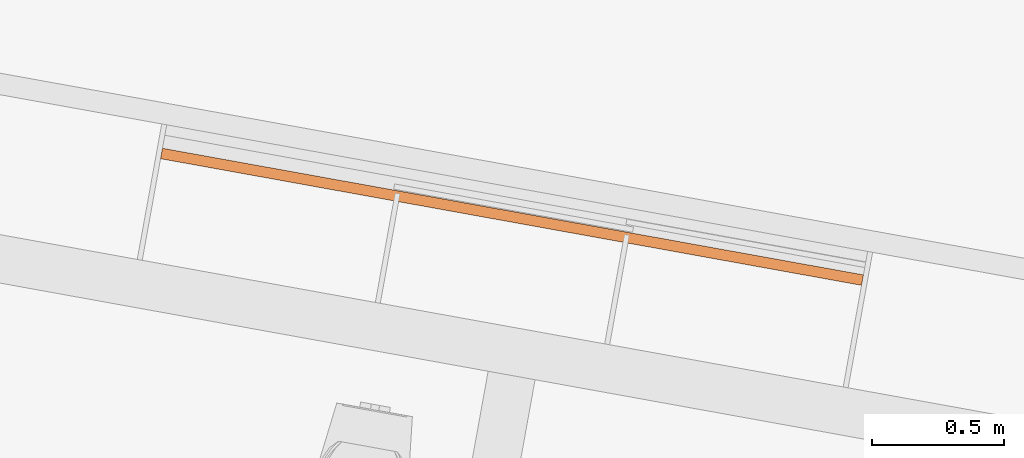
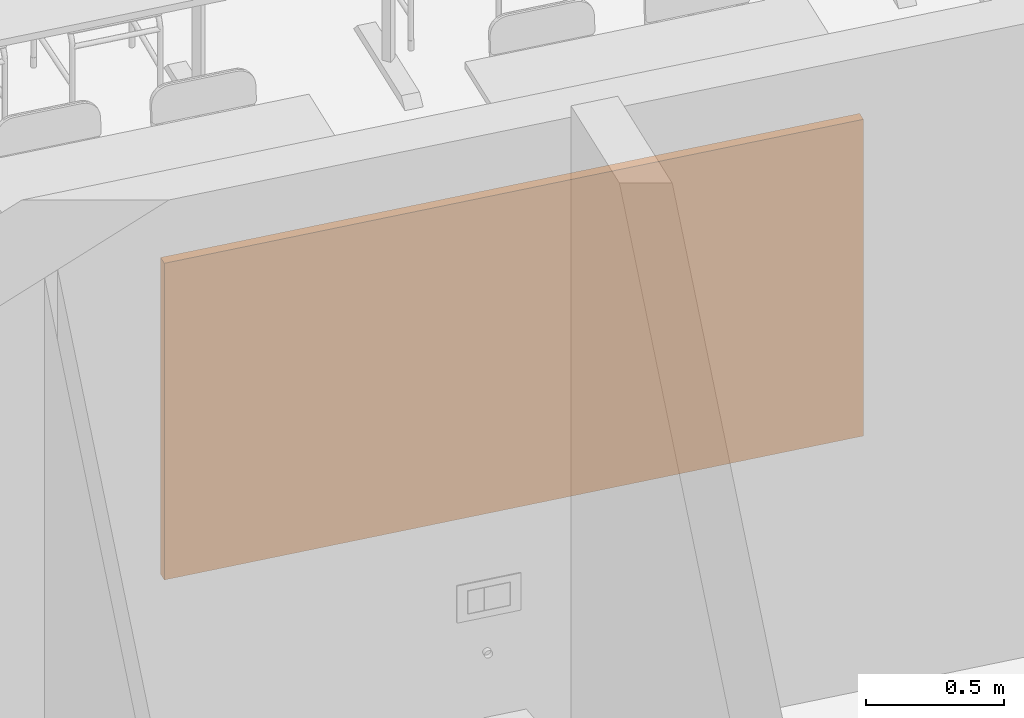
# One storey, part 32 of 79: 1 proxy.
"""IFC2X3 building model written with IfcOpenShell, lengths in metres."""

from ifc_helpers import new_model, entity, si_unit, converted_unit, derived_unit, money_unit, direction, frame, origin_with_axes, place, context, subcontext, project, spatial, polyline, outline, extrude, material, type_object, element, save


model = new_model("IFC2X3")

# Units and contexts
model_context = context("Model", 3, precision=1e-05, world=origin_with_axes(), true_north=direction((0.0, 1.0)))
body_context = subcontext(model_context, "Body", "Model", "MODEL_VIEW")
ifc_project = project(units=[si_unit("LENGTHUNIT", "METRE"), si_unit("AREAUNIT", "SQUARE_METRE"), si_unit("VOLUMEUNIT", "CUBIC_METRE"), converted_unit("PLANEANGLEUNIT", "DEGREE", entity("IfcPlaneAngleMeasure", 0.0174532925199), si_unit("PLANEANGLEUNIT", "RADIAN"), dimensions=[0, 0, 0, 0, 0, 0, 0]), money_unit("CHF"), converted_unit("TIMEUNIT", "Year", entity("IfcTimeMeasure", 31556926.0), si_unit("TIMEUNIT", "SECOND"), dimensions=[0, 0, 1, 0, 0, 0, 0]), si_unit("MASSUNIT", "GRAM", prefix="KILO"), si_unit("THERMODYNAMICTEMPERATUREUNIT", "DEGREE_CELSIUS"), si_unit("LUMINOUSINTENSITYUNIT", "LUMEN"), si_unit("ENERGYUNIT", "JOULE", prefix="MEGA"), derived_unit("THERMALCONDUCTANCEUNIT", [(si_unit("POWERUNIT", "WATT"), 1), (si_unit("LENGTHUNIT", "METRE"), -1), (si_unit("THERMODYNAMICTEMPERATUREUNIT", "KELVIN"), -1)]), derived_unit("SPECIFICHEATCAPACITYUNIT", [(si_unit("ENERGYUNIT", "JOULE"), 1), (si_unit("MASSUNIT", "GRAM", prefix="KILO"), -1), (si_unit("THERMODYNAMICTEMPERATUREUNIT", "KELVIN"), -1)]), derived_unit("MASSDENSITYUNIT", [(si_unit("MASSUNIT", "GRAM", prefix="KILO"), 1), (si_unit("VOLUMEUNIT", "CUBIC_METRE"), -1)])], contexts=[model_context])

# Site, building, storey
site_placement = place(None, frame((0.0, 0.0, 0.0), z_axis=(0.0, 0.0, 1.0), x_axis=(-0.177771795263, -0.984071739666, 0.0)))
site = spatial("IfcSite", under=ifc_project, at=site_placement, Name="Site", CompositionType="ELEMENT")
building_placement = place(site_placement, origin_with_axes())
building = spatial("IfcBuilding", under=site, at=building_placement, Name="Bâtiment", CompositionType="ELEMENT")
storey_placement = place(building_placement, origin_with_axes())
storey = spatial("IfcBuildingStorey", under=building, at=storey_placement, Name="RDC", CompositionType="ELEMENT", Elevation=0.0)

# Proxy
ifc_material = material(Name="_panneau mélaminé")
building_element_proxy_type = type_object("IfcBuildingElementProxyType", Name="_panneau mélaminé 40", PredefinedType="NOTDEFINED")
proxy_placement = place(storey_placement, frame((137.404841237, -151.107651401, 0.7), z_axis=(0.0, 0.0, 1.0), x_axis=(0.0, -1.0, 0.0)))
element("IfcBuildingElementProxy", 1, at=proxy_placement, inside=storey, type_object=building_element_proxy_type, material=ifc_material, Name="tableau-classe", context=body_context, shape_type="SweptSolid", body=[
    extrude(outline(polyline([(0.0095, 0.0), (2.6995, 0.0), (2.6995, 0.04), (0.0095, 0.04), (0.0095, 0.0)])), origin_with_axes(), (0.0, 0.0, 1.0), 1.4),
])

save(model, "model.ifc")
